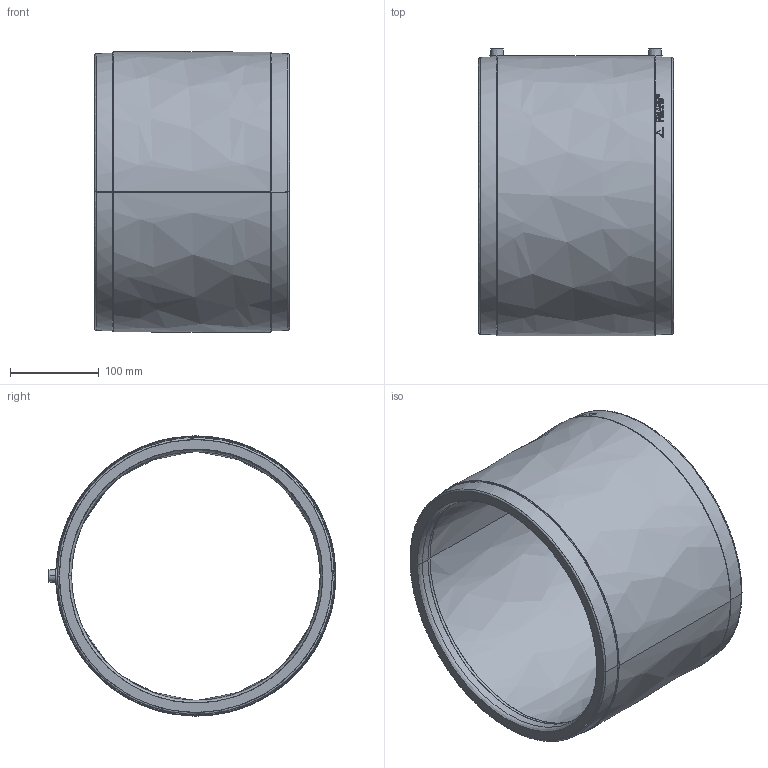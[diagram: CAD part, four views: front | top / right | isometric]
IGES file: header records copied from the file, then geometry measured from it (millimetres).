
Start section:  PTC IGES file: am_d280.igs
Global section: file name: am_d280.igs; native system: Pro/ENGINEER by Parametric Technology Corporation; preprocessor: 2011490; author: mtunjic; organization: Unknown; date: 20130729.163359; units: millimetre
Bounding box: 220 x 324.6 x 316 mm (x, y, z)
Surface area: 441677.3 mm2 (no closed solid volume)
Topology: 0 solids, 0 shells, 231 faces, 1104 edges, 1104 vertices
Faces by surface type: bspline 231
